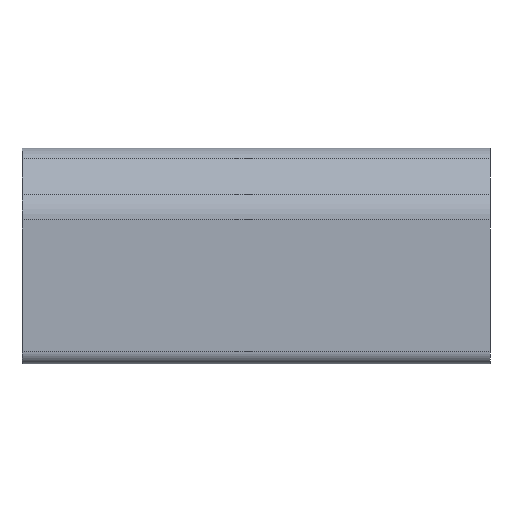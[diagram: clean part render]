
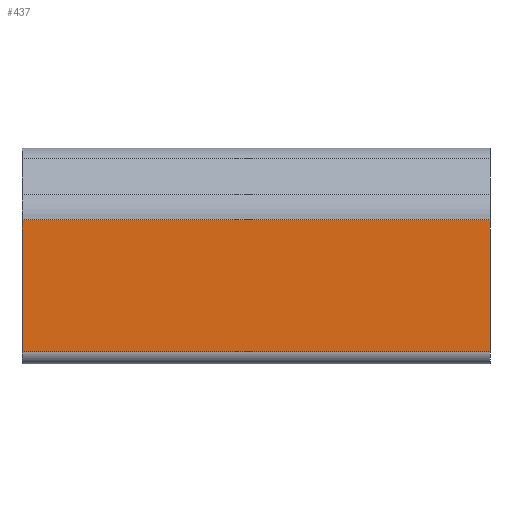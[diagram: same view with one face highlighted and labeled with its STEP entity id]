
A CAD part, left-side view. The second image highlights one B-rep face of the part: STEP entity #437.
In plain terms, the highlighted planar face has unit normal (-1, 0, 0).
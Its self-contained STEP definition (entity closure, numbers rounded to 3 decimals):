
#7 = VERTEX_POINT ( 'NONE', #362 ) ;
#17 = AXIS2_PLACEMENT_3D ( 'NONE', #226, #284, #512 ) ;
#61 = EDGE_CURVE ( 'NONE', #550, #334, #601, .T. ) ;
#78 = DIRECTION ( 'NONE',  ( 0., 0., -1. ) ) ;
#128 = EDGE_CURVE ( 'NONE', #7, #430, #423, .T. ) ;
#138 = ORIENTED_EDGE ( 'NONE', *, *, #61, .F. ) ;
#153 = LINE ( 'NONE', #263, #687 ) ;
#165 = FACE_OUTER_BOUND ( 'NONE', #201, .T. ) ;
#178 = DIRECTION ( 'NONE',  ( 0., -1., 0. ) ) ;
#201 = EDGE_LOOP ( 'NONE', ( #138, #244, #521, #511 ) ) ;
#226 = CARTESIAN_POINT ( 'NONE',  ( -6., 39., -3. ) ) ;
#244 = ORIENTED_EDGE ( 'NONE', *, *, #290, .T. ) ;
#263 = CARTESIAN_POINT ( 'NONE',  ( -6., 39., -3. ) ) ;
#284 = DIRECTION ( 'NONE',  ( -1., 0., 0. ) ) ;
#290 = EDGE_CURVE ( 'NONE', #550, #7, #153, .T. ) ;
#298 = LINE ( 'NONE', #515, #525 ) ;
#334 = VERTEX_POINT ( 'NONE', #729 ) ;
#362 = CARTESIAN_POINT ( 'NONE',  ( -6., 39., -3. ) ) ;
#374 = VECTOR ( 'NONE', #418, 1000. ) ;
#418 = DIRECTION ( 'NONE',  ( 0., 0., -1. ) ) ;
#423 = LINE ( 'NONE', #481, #611 ) ;
#430 = VERTEX_POINT ( 'NONE', #518 ) ;
#437 = ADVANCED_FACE ( 'NONE', ( #165 ), #618, .T. ) ;
#481 = CARTESIAN_POINT ( 'NONE',  ( -6., 39., -3. ) ) ;
#511 = ORIENTED_EDGE ( 'NONE', *, *, #514, .T. ) ;
#512 = DIRECTION ( 'NONE',  ( 0., 0., 1. ) ) ;
#514 = EDGE_CURVE ( 'NONE', #430, #334, #298, .T. ) ;
#515 = CARTESIAN_POINT ( 'NONE',  ( -6., 39., -14. ) ) ;
#518 = CARTESIAN_POINT ( 'NONE',  ( -6., 39., -14. ) ) ;
#521 = ORIENTED_EDGE ( 'NONE', *, *, #128, .T. ) ;
#525 = VECTOR ( 'NONE', #178, 1000. ) ;
#546 = DIRECTION ( 'NONE',  ( 0., 1., 0. ) ) ;
#550 = VERTEX_POINT ( 'NONE', #677 ) ;
#601 = LINE ( 'NONE', #708, #374 ) ;
#611 = VECTOR ( 'NONE', #78, 1000. ) ;
#618 = PLANE ( 'NONE',  #17 ) ;
#677 = CARTESIAN_POINT ( 'NONE',  ( -6., 0., -3. ) ) ;
#687 = VECTOR ( 'NONE', #546, 1000. ) ;
#708 = CARTESIAN_POINT ( 'NONE',  ( -6., 0., -3. ) ) ;
#729 = CARTESIAN_POINT ( 'NONE',  ( -6., 0., -14. ) ) ;
